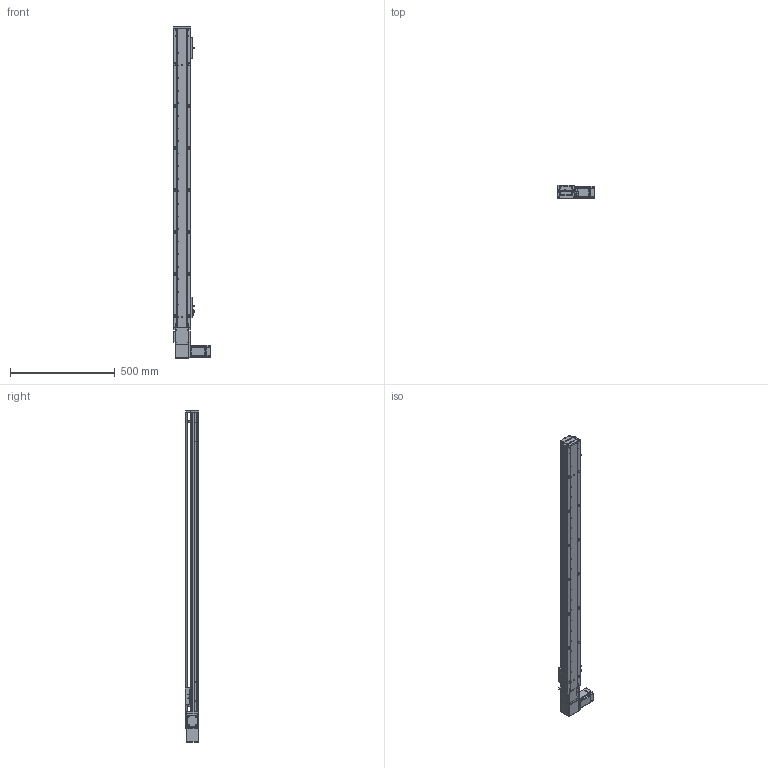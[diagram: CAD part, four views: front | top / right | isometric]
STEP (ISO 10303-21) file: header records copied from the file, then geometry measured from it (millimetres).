
FILE_DESCRIPTION (( 'STEP AP203' ), '1' );
FILE_NAME ('RY80-T-300-RK.SLDASM_1250.step', '2021-03-01T02:07:42', ( '盈信电脑' ), ( '东莞市道滘镇水果街19号' ), 'SwSTEP 2.0', 'SolidWorks 2012', '' );
FILE_SCHEMA (( 'CONFIG_CONTROL_DESIGN' ));
Length unit declared in the file: millimetre
Products named in the file (20): RY80-T-300-RK.SLDASM_1250; RY100-T粣創揤踡裔; 滅袉蝶18-10; RY80-T肮祭謫俋欶; RY80-T-M4蹟翐; RY80-T翋肮祭謫裔啣; RY80-T粣創揤踡輸; RY80-T萇儂假蚾啣; RY80-T肮祭湍揤輸2; RY80-T肮祭湍揤輸1; RY80-T-翋肮祭謫釱; 1; 侂狟200W萇儂; RY80-T綴裔啣; RY80俋离覜茼え; 覜茼ん672; 672嫖萇羲壽假蚾釱; RY80-T肮祭謫臏賑輸; RY80-T-300-RK倰第菁釱_1250; RY80-T-300-RK倰第奻裔啣_1250
Assembly tree (25 placements, depth 3):
  RY80-T-300-RK.SLDASM_1250
    RY80-T-300-RK倰第菁釱_1250
    RY80-T肮祭謫臏賑輸
    RY80-T-300-RK倰第奻裔啣_1250
    RY80-T綴裔啣
    672嫖萇羲壽假蚾釱  x2
    覜茼ん672  x3
    RY80俋离覜茼え
    侂狟200W萇儂
      1
    RY80-T-翋肮祭謫釱
    RY80-T萇儂假蚾啣
    RY80-T肮祭湍揤輸1
    RY80-T肮祭湍揤輸2
    RY80-T粣創揤踡輸
    RY80-T-M4蹟翐  x2
    RY80-T翋肮祭謫裔啣  x2
    RY80-T肮祭謫俋欶
    滅袉蝶18-10  x2
    RY100-T粣創揤踡裔
Bounding box: 180 x 65 x 1585 mm (x, y, z)
Volume: 2518180.1 mm3; surface area: 1059445.5 mm2
Topology: 24 solids, 24 shells, 2499 faces, 6886 edges, 4475 vertices
Faces by surface type: plane 1332, cylinder 962, cone 149, bspline 56
Entity records: 78650 total; most frequent: CARTESIAN_POINT 18977, ORIENTED_EDGE 12216, DIRECTION 11526, EDGE_CURVE 6108, VERTEX_POINT 4016, AXIS2_PLACEMENT_3D 3889, VECTOR 3748, LINE 3748
